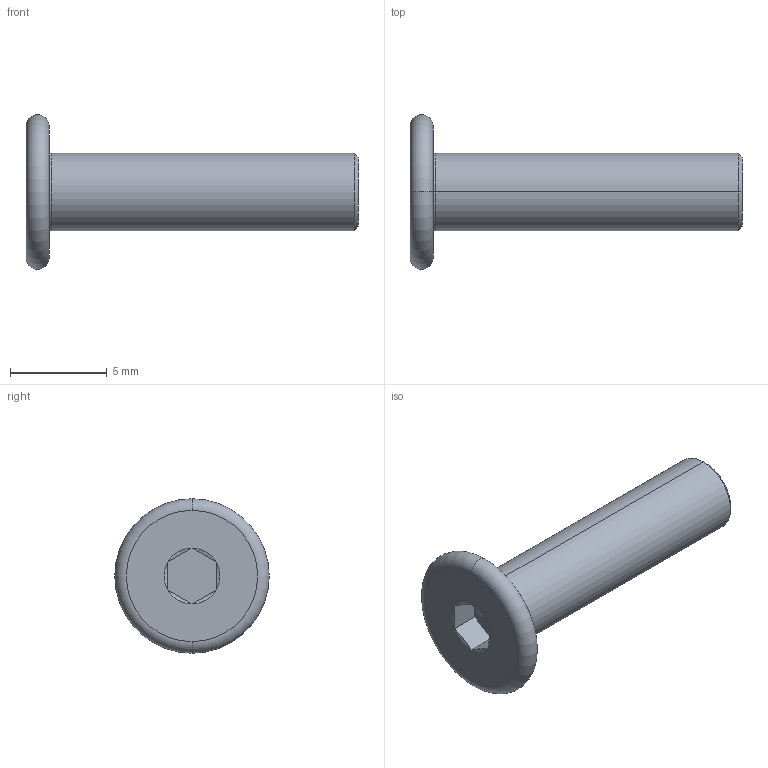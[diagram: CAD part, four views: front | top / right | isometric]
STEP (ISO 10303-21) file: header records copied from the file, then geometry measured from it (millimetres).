
FILE_DESCRIPTION (( 'STEP AP203' ), '1' );
FILE_NAME ('LGD-304M-M4x16.STEP', '2026-08-13T10:06:28', ( '' ), ( '' ), 'SwSTEP 2.0', 'SolidWorks 2020', '' );
FILE_SCHEMA (( 'CONFIG_CONTROL_DESIGN' ));
Length unit declared in the file: millimetre
Products named in the file (1): LGD-304M-M4x16
Bounding box: 17.2 x 8 x 8 mm (x, y, z)
Volume: 249.3 mm3; surface area: 329.1 mm2
Topology: 1 solids, 1 shells, 24 faces, 44 edges, 24 vertices
Faces by surface type: plane 10, cone 8, torus 4, cylinder 2
Entity records: 673 total; most frequent: CARTESIAN_POINT 119, DIRECTION 110, ORIENTED_EDGE 88, AXIS2_PLACEMENT_3D 47, EDGE_CURVE 44, EDGE_LOOP 26, VERTEX_POINT 24, ADVANCED_FACE 24
